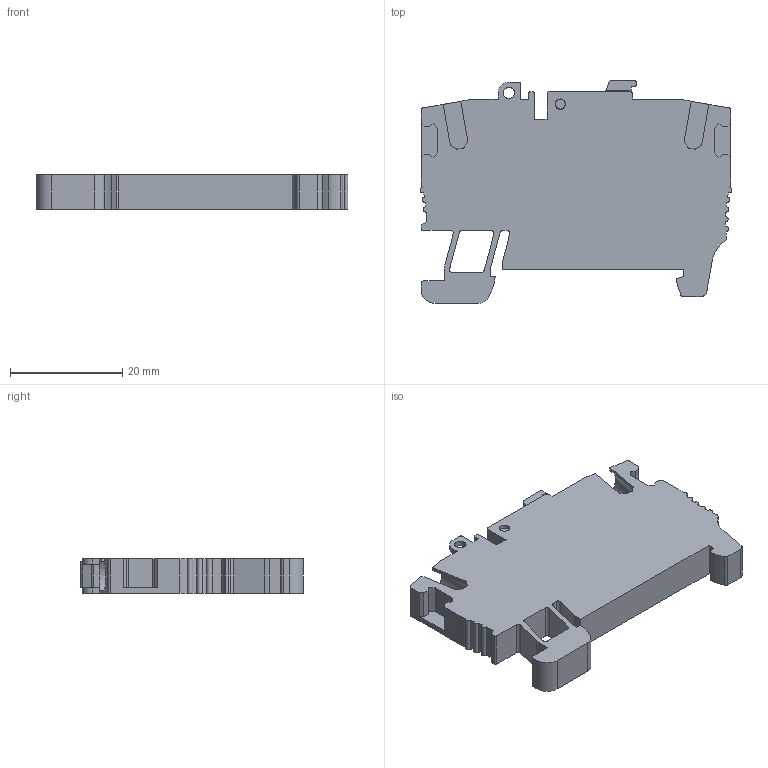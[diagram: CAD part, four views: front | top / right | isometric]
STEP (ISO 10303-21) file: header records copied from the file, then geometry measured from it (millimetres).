
FILE_DESCRIPTION(('Creo Elements/Direct Modeling STEP Export'),'2;1');
FILE_NAME('EFS.4.stp','2019-01-08T15:30:11',(''),(''),'Creo Elements/Direct Modeling STEP processor for AP214 (Solid Model)','Creo Elements/Direct Modeling 20.1 10-Mar-2018 (C) Parametric Technology GmbH','');
FILE_SCHEMA(('AUTOMOTIVE_DESIGN { 1 0 10303 214 1 1 1 1 }'));
Length unit declared in the file: millimetre
Products named in the file (2): EFS.4
Assembly tree (1 placements, depth 2):
  EFS.4
    EFS.4
Bounding box: 55.56 x 39.7 x 6.2 mm (x, y, z)
Volume: 9297.8 mm3; surface area: 6106.2 mm2
Topology: 1 solids, 1 shells, 248 faces, 714 edges, 475 vertices
Faces by surface type: plane 161, cylinder 87
Entity records: 8432 total; most frequent: ORIENTED_EDGE 1428, CARTESIAN_POINT 1391, DIRECTION 1315, EDGE_CURVE 714, VECTOR 517, LINE 517, VERTEX_POINT 475, AXIS2_PLACEMENT_3D 399
